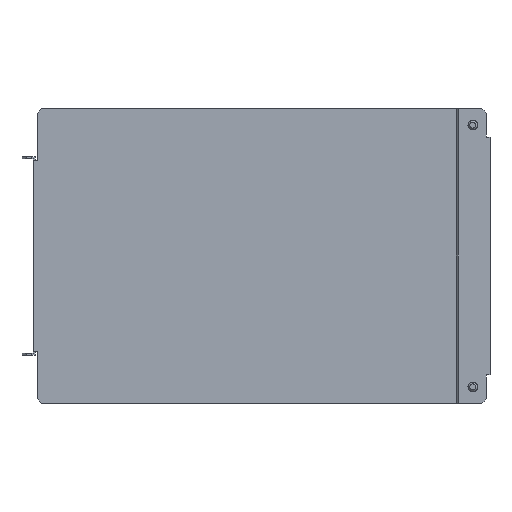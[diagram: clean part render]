
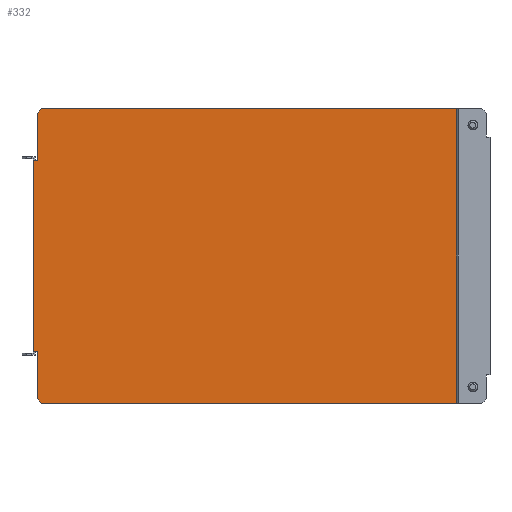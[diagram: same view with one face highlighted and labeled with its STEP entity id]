
A CAD part, front view. The second image highlights one B-rep face of the part: STEP entity #332.
In plain terms, the highlighted planar face has unit normal (0, -1, 0).
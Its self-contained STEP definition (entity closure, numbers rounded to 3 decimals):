
#35 = LINE ( 'NONE', #347, #343 ) ;
#88 = VERTEX_POINT ( 'NONE', #3369 ) ;
#144 = CARTESIAN_POINT ( 'NONE',  ( -198., 1.5, 198. ) ) ;
#194 = VERTEX_POINT ( 'NONE', #3631 ) ;
#221 = DIRECTION ( 'NONE',  ( 1., 0., 0. ) ) ;
#232 = DIRECTION ( 'NONE',  ( -1., 0., 0. ) ) ;
#287 = VERTEX_POINT ( 'NONE', #691 ) ;
#290 = CARTESIAN_POINT ( 'NONE',  ( -20.925, 1.5, -98.5 ) ) ;
#332 = ADVANCED_FACE ( 'NONE', ( #3056 ), #1466, .T. ) ;
#343 = VECTOR ( 'NONE', #1931, 1000. ) ;
#347 = CARTESIAN_POINT ( 'NONE',  ( 0., 1.5, 98.5 ) ) ;
#362 = ORIENTED_EDGE ( 'NONE', *, *, #1700, .T. ) ;
#443 = VECTOR ( 'NONE', #958, 1000. ) ;
#454 = CARTESIAN_POINT ( 'NONE',  ( -300.5, 1.5, -64. ) ) ;
#570 = LINE ( 'NONE', #3833, #2328 ) ;
#691 = CARTESIAN_POINT ( 'NONE',  ( -300.8, 1.5, -64. ) ) ;
#802 = CARTESIAN_POINT ( 'NONE',  ( 0., 1.5, 0. ) ) ;
#875 = LINE ( 'NONE', #3874, #2672 ) ;
#897 = EDGE_CURVE ( 'NONE', #88, #2071, #875, .T. ) ;
#900 = EDGE_CURVE ( 'NONE', #3775, #3988, #3559, .T. ) ;
#958 = DIRECTION ( 'NONE',  ( 0., 0., -1. ) ) ;
#978 = VECTOR ( 'NONE', #3813, 1000. ) ;
#1111 = VECTOR ( 'NONE', #221, 1000. ) ;
#1113 = ORIENTED_EDGE ( 'NONE', *, *, #2739, .T. ) ;
#1145 = DIRECTION ( 'NONE',  ( 0., -1., 0. ) ) ;
#1182 = CARTESIAN_POINT ( 'NONE',  ( -303.3, 1.5, 0. ) ) ;
#1186 = LINE ( 'NONE', #1207, #1111 ) ;
#1207 = CARTESIAN_POINT ( 'NONE',  ( -20.925, 1.5, -98.5 ) ) ;
#1258 = LINE ( 'NONE', #3875, #1940 ) ;
#1281 = DIRECTION ( 'NONE',  ( 0.707, 0., -0.707 ) ) ;
#1297 = VERTEX_POINT ( 'NONE', #1910 ) ;
#1301 = CARTESIAN_POINT ( 'NONE',  ( -300.5, 1.5, 98.5 ) ) ;
#1302 = EDGE_CURVE ( 'NONE', #287, #4199, #570, .T. ) ;
#1325 = LINE ( 'NONE', #1301, #3448 ) ;
#1330 = ORIENTED_EDGE ( 'NONE', *, *, #3232, .T. ) ;
#1346 = VERTEX_POINT ( 'NONE', #290 ) ;
#1358 = ORIENTED_EDGE ( 'NONE', *, *, #3918, .F. ) ;
#1370 = ORIENTED_EDGE ( 'NONE', *, *, #3850, .T. ) ;
#1397 = EDGE_CURVE ( 'NONE', #3775, #3009, #35, .T. ) ;
#1466 = PLANE ( 'NONE',  #3880 ) ;
#1519 = LINE ( 'NONE', #3133, #978 ) ;
#1540 = EDGE_CURVE ( 'NONE', #1794, #3009, #2338, .T. ) ;
#1556 = CARTESIAN_POINT ( 'NONE',  ( -300.5, 1.5, 98.5 ) ) ;
#1570 = LINE ( 'NONE', #2235, #1863 ) ;
#1596 = CARTESIAN_POINT ( 'NONE',  ( 0., 1.5, 98.5 ) ) ;
#1611 = CARTESIAN_POINT ( 'NONE',  ( -303.3, 1.5, 64. ) ) ;
#1700 = EDGE_CURVE ( 'NONE', #1346, #1794, #1186, .T. ) ;
#1703 = ORIENTED_EDGE ( 'NONE', *, *, #2991, .T. ) ;
#1732 = DIRECTION ( 'NONE',  ( -1., 0., 0. ) ) ;
#1794 = VERTEX_POINT ( 'NONE', #2529 ) ;
#1832 = VECTOR ( 'NONE', #1896, 1000. ) ;
#1863 = VECTOR ( 'NONE', #2818, 1000. ) ;
#1896 = DIRECTION ( 'NONE',  ( 0., 0., 1. ) ) ;
#1910 = CARTESIAN_POINT ( 'NONE',  ( -300.5, 1.5, -95.5 ) ) ;
#1931 = DIRECTION ( 'NONE',  ( 1., 0., 0. ) ) ;
#1940 = VECTOR ( 'NONE', #1281, 1000. ) ;
#2025 = LINE ( 'NONE', #144, #3329 ) ;
#2026 = EDGE_CURVE ( 'NONE', #287, #3138, #1519, .T. ) ;
#2031 = ORIENTED_EDGE ( 'NONE', *, *, #1540, .T. ) ;
#2043 = DIRECTION ( 'NONE',  ( 0., 0., -1. ) ) ;
#2051 = EDGE_CURVE ( 'NONE', #88, #3317, #1570, .T. ) ;
#2071 = VERTEX_POINT ( 'NONE', #3502 ) ;
#2126 = ORIENTED_EDGE ( 'NONE', *, *, #1397, .F. ) ;
#2131 = VECTOR ( 'NONE', #232, 1000. ) ;
#2200 = DIRECTION ( 'NONE',  ( 1., 0., 0. ) ) ;
#2235 = CARTESIAN_POINT ( 'NONE',  ( -300.8, 1.5, 64. ) ) ;
#2236 = LINE ( 'NONE', #1556, #443 ) ;
#2260 = VECTOR ( 'NONE', #2938, 1000. ) ;
#2328 = VECTOR ( 'NONE', #4148, 1000. ) ;
#2338 = LINE ( 'NONE', #3869, #2260 ) ;
#2485 = DIRECTION ( 'NONE',  ( 1., 0., 0. ) ) ;
#2529 = CARTESIAN_POINT ( 'NONE',  ( -20.511, 1.5, -98.5 ) ) ;
#2672 = VECTOR ( 'NONE', #2200, 1000. ) ;
#2712 = ORIENTED_EDGE ( 'NONE', *, *, #900, .T. ) ;
#2739 = EDGE_CURVE ( 'NONE', #1297, #194, #1258, .T. ) ;
#2818 = DIRECTION ( 'NONE',  ( -1., 0., 0. ) ) ;
#2907 = ORIENTED_EDGE ( 'NONE', *, *, #3911, .T. ) ;
#2928 = CARTESIAN_POINT ( 'NONE',  ( -20.511, 1.5, 98.5 ) ) ;
#2938 = DIRECTION ( 'NONE',  ( 0., 0., 1. ) ) ;
#2991 = EDGE_CURVE ( 'NONE', #3719, #2071, #1325, .T. ) ;
#3009 = VERTEX_POINT ( 'NONE', #2928 ) ;
#3056 = FACE_OUTER_BOUND ( 'NONE', #3359, .T. ) ;
#3133 = CARTESIAN_POINT ( 'NONE',  ( 0., 1.5, -64. ) ) ;
#3138 = VERTEX_POINT ( 'NONE', #4087 ) ;
#3189 = ORIENTED_EDGE ( 'NONE', *, *, #2051, .T. ) ;
#3219 = LINE ( 'NONE', #3758, #3663 ) ;
#3232 = EDGE_CURVE ( 'NONE', #4199, #1297, #2236, .T. ) ;
#3269 = CARTESIAN_POINT ( 'NONE',  ( -20.925, 1.5, 98.5 ) ) ;
#3317 = VERTEX_POINT ( 'NONE', #1611 ) ;
#3329 = VECTOR ( 'NONE', #3356, 1000. ) ;
#3356 = DIRECTION ( 'NONE',  ( -0.707, 0., -0.707 ) ) ;
#3359 = EDGE_LOOP ( 'NONE', ( #2907, #362, #2031, #2126, #2712, #1370, #1703, #3999, #3189, #1358, #3591, #3374, #1330, #1113 ) ) ;
#3369 = CARTESIAN_POINT ( 'NONE',  ( -300.8, 1.5, 64. ) ) ;
#3374 = ORIENTED_EDGE ( 'NONE', *, *, #1302, .T. ) ;
#3448 = VECTOR ( 'NONE', #2043, 1000. ) ;
#3502 = CARTESIAN_POINT ( 'NONE',  ( -300.5, 1.5, 64. ) ) ;
#3521 = LINE ( 'NONE', #1182, #1832 ) ;
#3556 = CARTESIAN_POINT ( 'NONE',  ( -297.5, 1.5, 98.5 ) ) ;
#3559 = LINE ( 'NONE', #1596, #2131 ) ;
#3591 = ORIENTED_EDGE ( 'NONE', *, *, #2026, .F. ) ;
#3631 = CARTESIAN_POINT ( 'NONE',  ( -297.5, 1.5, -98.5 ) ) ;
#3663 = VECTOR ( 'NONE', #2485, 1000. ) ;
#3719 = VERTEX_POINT ( 'NONE', #3884 ) ;
#3758 = CARTESIAN_POINT ( 'NONE',  ( -300.5, 1.5, -98.5 ) ) ;
#3775 = VERTEX_POINT ( 'NONE', #3269 ) ;
#3813 = DIRECTION ( 'NONE',  ( -1., 0., 0. ) ) ;
#3833 = CARTESIAN_POINT ( 'NONE',  ( -300.8, 1.5, -64. ) ) ;
#3850 = EDGE_CURVE ( 'NONE', #3988, #3719, #2025, .T. ) ;
#3869 = CARTESIAN_POINT ( 'NONE',  ( -20.511, 1.5, 0. ) ) ;
#3874 = CARTESIAN_POINT ( 'NONE',  ( -300.8, 1.5, 64. ) ) ;
#3875 = CARTESIAN_POINT ( 'NONE',  ( -198., 1.5, -198. ) ) ;
#3880 = AXIS2_PLACEMENT_3D ( 'NONE', #802, #1145, #1732 ) ;
#3884 = CARTESIAN_POINT ( 'NONE',  ( -300.5, 1.5, 95.5 ) ) ;
#3911 = EDGE_CURVE ( 'NONE', #194, #1346, #3219, .T. ) ;
#3918 = EDGE_CURVE ( 'NONE', #3138, #3317, #3521, .T. ) ;
#3988 = VERTEX_POINT ( 'NONE', #3556 ) ;
#3999 = ORIENTED_EDGE ( 'NONE', *, *, #897, .F. ) ;
#4087 = CARTESIAN_POINT ( 'NONE',  ( -303.3, 1.5, -64. ) ) ;
#4148 = DIRECTION ( 'NONE',  ( 1., 0., 0. ) ) ;
#4199 = VERTEX_POINT ( 'NONE', #454 ) ;
